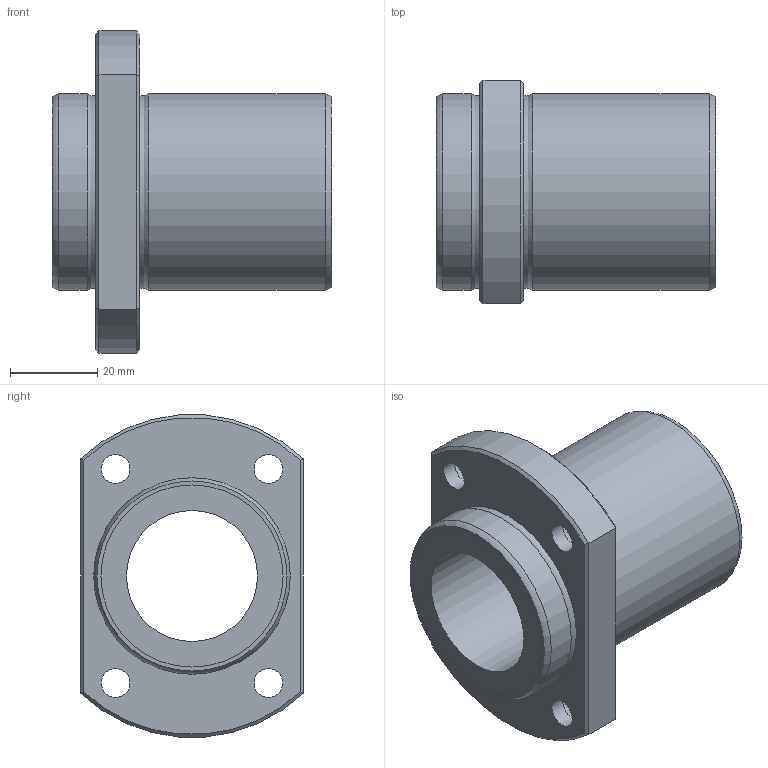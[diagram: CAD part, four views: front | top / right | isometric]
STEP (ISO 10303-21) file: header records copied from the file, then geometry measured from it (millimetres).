
FILE_DESCRIPTION((''),'2;1');
FILE_NAME('D:\製品 (図面)\カタログ用3D\リニアベアリング関連\STEP形式\LFTB\LFTB30.stp','2010-06-04T09:26:53',('Tsuchiya'),(''),'Autodesk Inventor 10','Autodesk Inventor 10','');
FILE_SCHEMA(('AUTOMOTIVE_DESIGN { 1 0 10303 214 1 1 1 1 }'));
Length unit declared in the file: millimetre
Products named in the file (1): LFTB30
Bounding box: 64 x 51 x 73.74 mm (x, y, z)
Volume: 71599 mm3; surface area: 22060.3 mm2
Topology: 1 solids, 1 shells, 39 faces, 75 edges, 46 vertices
Faces by surface type: bspline 14, plane 12, cylinder 7, cone 4, torus 2
Full cylindrical faces by diameter (mm): 30 x1, 41.7 x2, 45 x2
Entity records: 1177 total; most frequent: CARTESIAN_POINT 440, DIRECTION 140, ORIENTED_EDGE 116, EDGE_LOOP 74, AXIS2_PLACEMENT_3D 64, EDGE_CURVE 58, VERTEX_POINT 46, FACE_OUTER_BOUND 39
